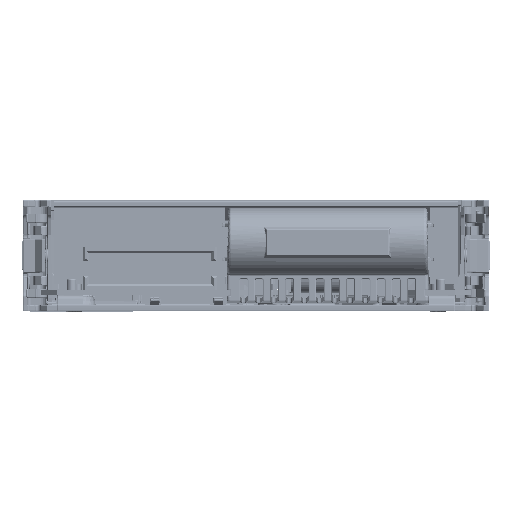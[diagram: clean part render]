
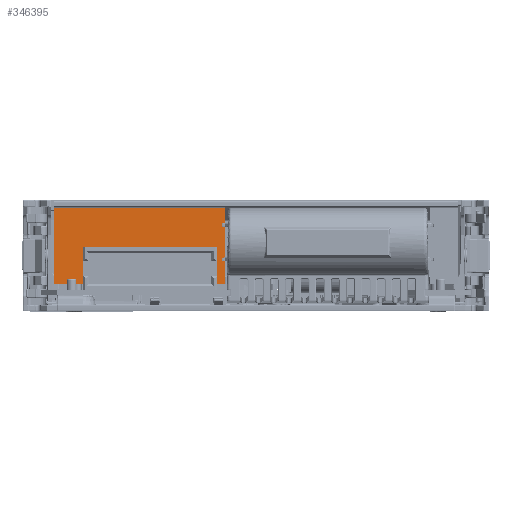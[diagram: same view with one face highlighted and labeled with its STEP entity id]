
A CAD part, left-side view. The second image highlights one B-rep face of the part: STEP entity #346395.
In plain terms, the highlighted planar face has unit normal (-1, 0, 0).
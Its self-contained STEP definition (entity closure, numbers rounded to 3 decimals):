
#338141=DIRECTION('',(0.,1.,0.));
#338142=VECTOR('',#338141,23.6);
#338143=CARTESIAN_POINT('',(0.,0.762,-72.71));
#338144=LINE('',#338143,#338142);
#338157=DIRECTION('',(0.,0.,1.));
#338158=VECTOR('',#338157,53.29);
#338159=CARTESIAN_POINT('',(0.,0.762,-126.));
#338160=LINE('',#338159,#338158);
#338161=DIRECTION('',(0.,0.,1.));
#338162=VECTOR('',#338161,53.29);
#338163=CARTESIAN_POINT('',(0.,24.362,-126.));
#338164=LINE('',#338163,#338162);
#340152=DIRECTION('',(0.,-1.,0.));
#340153=VECTOR('',#340152,23.6);
#340154=CARTESIAN_POINT('',(0.,24.362,-126.));
#340155=LINE('',#340154,#340153);
#345735=CARTESIAN_POINT('',(0.,24.362,-126.));
#345737=VERTEX_POINT('',#345735);
#345821=CARTESIAN_POINT('',(0.,0.762,-126.));
#345823=VERTEX_POINT('',#345821);
#345829=CARTESIAN_POINT('',(0.,0.762,-72.71));
#345830=VERTEX_POINT('',#345829);
#345991=CARTESIAN_POINT('',(0.,24.362,-72.71));
#345992=VERTEX_POINT('',#345991);
#346381=CARTESIAN_POINT('',(0.,24.742,0.));
#346382=DIRECTION('',(-1.,0.,0.));
#346383=DIRECTION('',(0.,-1.,0.));
#346384=AXIS2_PLACEMENT_3D('',#346381,#346382,#346383);
#346385=PLANE('',#346384);
#346386=ORIENTED_EDGE('',*,*,#346345,.F.);
#346388=ORIENTED_EDGE('',*,*,#346387,.F.);
#346390=ORIENTED_EDGE('',*,*,#346389,.F.);
#346392=ORIENTED_EDGE('',*,*,#346391,.T.);
#346393=EDGE_LOOP('',(#346386,#346388,#346390,#346392));
#346394=FACE_OUTER_BOUND('',#346393,.F.);
#346395=ADVANCED_FACE('',(#346394),#346385,.T.);
#346345=EDGE_CURVE('',#345830,#345992,#338144,.T.);
#346387=EDGE_CURVE('',#345823,#345830,#338160,.T.);
#346389=EDGE_CURVE('',#345737,#345823,#340155,.T.);
#346391=EDGE_CURVE('',#345737,#345992,#338164,.T.);
